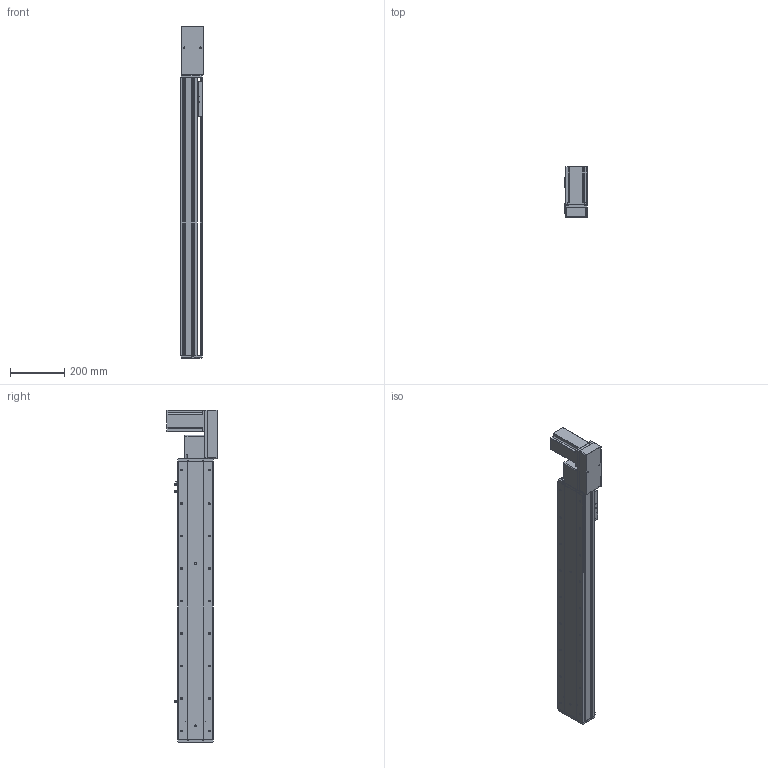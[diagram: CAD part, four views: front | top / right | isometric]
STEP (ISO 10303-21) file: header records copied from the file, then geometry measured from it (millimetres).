
FILE_DESCRIPTION (( 'STEP AP214' ), '1' );
FILE_NAME ('KSD130B-S800-MLB-CM.STEP', '2019-09-19T07:24:14', ( '微软用户' ), ( '微软中国' ), 'SwSTEP 2.0', 'SolidWorks 2014', '' );
FILE_SCHEMA (( 'AUTOMOTIVE_DESIGN' ));
Length unit declared in the file: millimetre
Products named in the file (12): 台达ECMA－C20807AS伺服电机; 130宽模组保护罩上下左右折-同步带; 130宽模组马达安装板连板左右折同步带; 覜茼え100遵圉猾敕; U倰嫖萇EEㄜSX672; 130宽盖板半封闭同步带-800行程; 130宽马达安装板同步带左-改; 130宽马达安装板同步带半封闭; 130宽同步带安装座半封闭; 130宽端盖同步带半封闭; 130宽底板半封闭同步带-800行程; KSD130B-S800-MLB-CM
Assembly tree (13 placements, depth 2):
  KSD130B-S800-MLB-CM
    130宽底板半封闭同步带-800行程
    130宽端盖同步带半封闭
    130宽同步带安装座半封闭
    130宽马达安装板同步带半封闭
    130宽马达安装板同步带左-改
    130宽盖板半封闭同步带-800行程
    U倰嫖萇EEㄜSX672  x3
    覜茼え100遵圉猾敕
    130宽模组马达安装板连板左右折同步带
    130宽模组保护罩上下左右折-同步带
    台达ECMA－C20807AS伺服电机
Bounding box: 82.5 x 184.8 x 1227 mm (x, y, z)
Volume: 4448918.3 mm3; surface area: 1196266.6 mm2
Topology: 14 solids, 14 shells, 1487 faces, 4221 edges, 2701 vertices
Faces by surface type: cylinder 706, plane 618, cone 163
Entity records: 48399 total; most frequent: CARTESIAN_POINT 8862, DIRECTION 7387, ORIENTED_EDGE 7102, EDGE_CURVE 3551, AXIS2_PLACEMENT_3D 2686, VERTEX_POINT 2325, LINE 2015, VECTOR 2015
